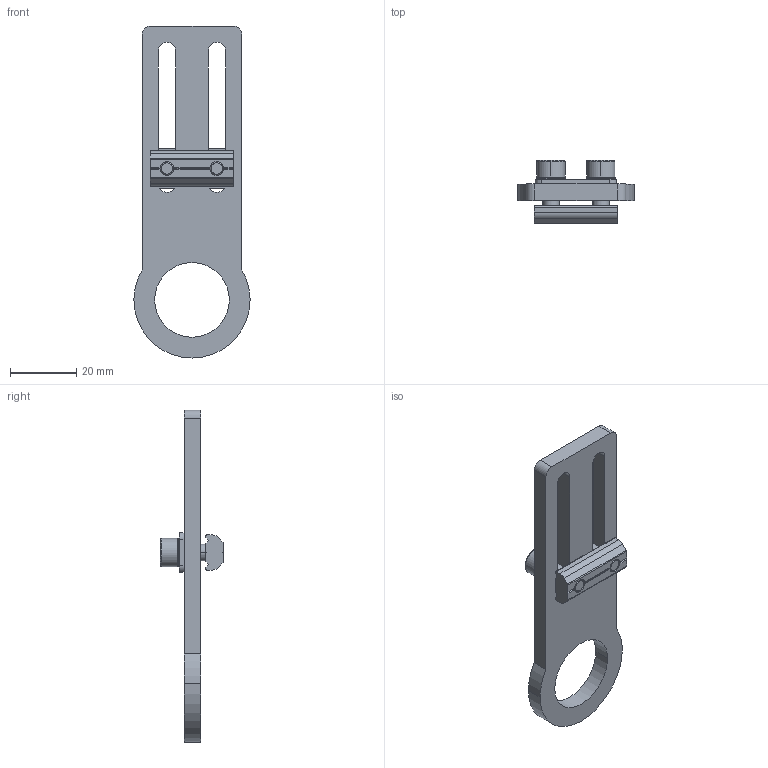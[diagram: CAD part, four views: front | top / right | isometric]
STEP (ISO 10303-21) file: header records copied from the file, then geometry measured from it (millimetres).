
FILE_DESCRIPTION (( 'STEP AP214' ), '1' );
FILE_NAME ('SMBE6-2240.STEP', '2019-11-06T02:19:14', ( '微软用户' ), ( '微软中国' ), 'SwSTEP 2.0', 'SolidWorks 2016', '' );
FILE_SCHEMA (( 'AUTOMOTIVE_DESIGN' ));
Length unit declared in the file: millimetre
Products named in the file (1): SMBE6-2240
Bounding box: 35 x 19 x 100 mm (x, y, z)
Volume: 13146.9 mm3; surface area: 9638 mm2
Topology: 7 solids, 7 shells, 512 faces, 1482 edges, 980 vertices
Faces by surface type: plane 447, cylinder 57, cone 4, bspline 4
Entity records: 23032 total; most frequent: CARTESIAN_POINT 3437, ORIENTED_EDGE 2964, DIRECTION 2938, EDGE_CURVE 1482, AXIS2_PLACEMENT_3D 987, VERTEX_POINT 980, VECTOR 964, LINE 964
